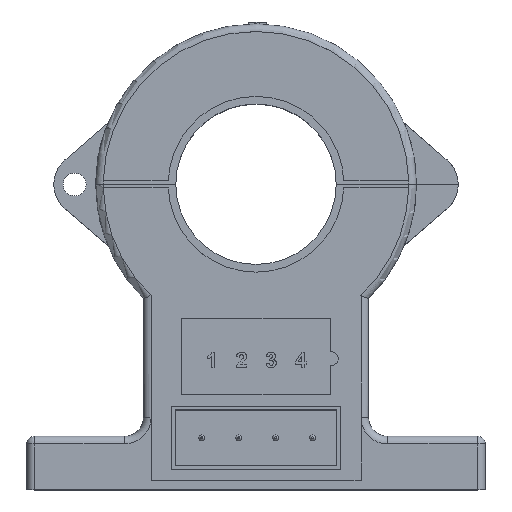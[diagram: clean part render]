
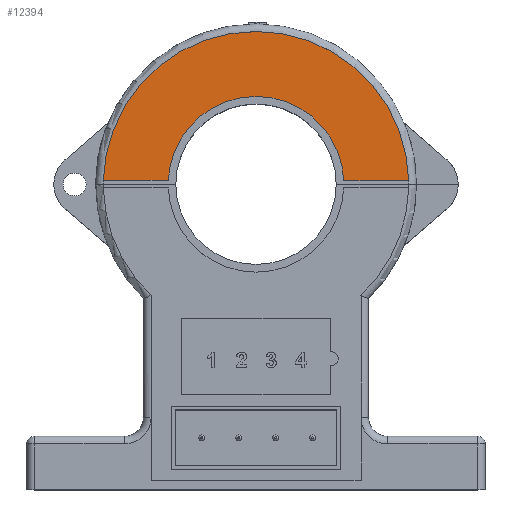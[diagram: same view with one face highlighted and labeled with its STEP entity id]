
A CAD part, top view. The second image highlights one B-rep face of the part: STEP entity #12394.
In plain terms, the highlighted planar face has unit normal (0, 0, 1).
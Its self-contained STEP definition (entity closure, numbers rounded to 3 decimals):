
#12083 = PLANE('',#12084);
#12084 = AXIS2_PLACEMENT_3D('',#12085,#12086,#12087);
#12085 = CARTESIAN_POINT('',(10.006,40.507,15.));
#12086 = DIRECTION('',(0.,-1.,0.));
#12087 = DIRECTION('',(1.,0.,0.));
#12108 = VERTEX_POINT('',#12109);
#12109 = CARTESIAN_POINT('',(18.511,40.507,15.1));
#12123 = CYLINDRICAL_SURFACE('',#12124,11.5);
#12124 = AXIS2_PLACEMENT_3D('',#12125,#12126,#12127);
#12125 = CARTESIAN_POINT('',(30.,40.,15.));
#12126 = DIRECTION('',(0.,0.,1.));
#12127 = DIRECTION('',(1.,-0.002,0.));
#12135 = EDGE_CURVE('',#12136,#12108,#12138,.T.);
#12136 = VERTEX_POINT('',#12137);
#12137 = CARTESIAN_POINT('',(10.006,40.507,15.1));
#12138 = SURFACE_CURVE('',#12139,(#12143,#12150),.PCURVE_S1.);
#12139 = LINE('',#12140,#12141);
#12140 = CARTESIAN_POINT('',(18.511,40.507,15.1));
#12141 = VECTOR('',#12142,1.);
#12142 = DIRECTION('',(1.,0.,0.));
#12143 = PCURVE('',#12083,#12144);
#12144 = DEFINITIONAL_REPRESENTATION('',(#12145),#12149);
#12145 = LINE('',#12146,#12147);
#12146 = CARTESIAN_POINT('',(8.505,0.1));
#12147 = VECTOR('',#12148,1.);
#12148 = DIRECTION('',(1.,0.));
#12149 = ( GEOMETRIC_REPRESENTATION_CONTEXT(2) 
PARAMETRIC_REPRESENTATION_CONTEXT() REPRESENTATION_CONTEXT('2D SPACE',''
  ) );
#12150 = PCURVE('',#12151,#12156);
#12151 = PLANE('',#12152);
#12152 = AXIS2_PLACEMENT_3D('',#12153,#12154,#12155);
#12153 = CARTESIAN_POINT('',(30.,50.241,15.1));
#12154 = DIRECTION('',(0.,0.,1.));
#12155 = DIRECTION('',(-1.,0.,0.));
#12156 = DEFINITIONAL_REPRESENTATION('',(#12157),#12161);
#12157 = LINE('',#12158,#12159);
#12158 = CARTESIAN_POINT('',(11.489,9.734));
#12159 = VECTOR('',#12160,1.);
#12160 = DIRECTION('',(-1.,0.));
#12161 = ( GEOMETRIC_REPRESENTATION_CONTEXT(2) 
PARAMETRIC_REPRESENTATION_CONTEXT() REPRESENTATION_CONTEXT('2D SPACE',''
  ) );
#12177 = CYLINDRICAL_SURFACE('',#12178,20.);
#12178 = AXIS2_PLACEMENT_3D('',#12179,#12180,#12181);
#12179 = CARTESIAN_POINT('',(30.,40.,15.));
#12180 = DIRECTION('',(0.,0.,1.));
#12181 = DIRECTION('',(1.,-0.001,0.));
#12221 = EDGE_CURVE('',#12222,#12136,#12224,.T.);
#12222 = VERTEX_POINT('',#12223);
#12223 = CARTESIAN_POINT('',(49.994,40.482,15.1));
#12224 = SURFACE_CURVE('',#12225,(#12230,#12237),.PCURVE_S1.);
#12225 = CIRCLE('',#12226,20.);
#12226 = AXIS2_PLACEMENT_3D('',#12227,#12228,#12229);
#12227 = CARTESIAN_POINT('',(30.,40.,15.1));
#12228 = DIRECTION('',(0.,0.,1.));
#12229 = DIRECTION('',(1.,-0.001,0.));
#12230 = PCURVE('',#12177,#12231);
#12231 = DEFINITIONAL_REPRESENTATION('',(#12232),#12236);
#12232 = LINE('',#12233,#12234);
#12233 = CARTESIAN_POINT('',(0.,0.1));
#12234 = VECTOR('',#12235,1.);
#12235 = DIRECTION('',(1.,0.));
#12236 = ( GEOMETRIC_REPRESENTATION_CONTEXT(2) 
PARAMETRIC_REPRESENTATION_CONTEXT() REPRESENTATION_CONTEXT('2D SPACE',''
  ) );
#12237 = PCURVE('',#12151,#12238);
#12238 = DEFINITIONAL_REPRESENTATION('',(#12239),#12243);
#12239 = CIRCLE('',#12240,20.);
#12240 = AXIS2_PLACEMENT_2D('',#12241,#12242);
#12241 = CARTESIAN_POINT('',(0.,10.241));
#12242 = DIRECTION('',(-1.,0.001));
#12243 = ( GEOMETRIC_REPRESENTATION_CONTEXT(2) 
PARAMETRIC_REPRESENTATION_CONTEXT() REPRESENTATION_CONTEXT('2D SPACE',''
  ) );
#12259 = PLANE('',#12260);
#12260 = AXIS2_PLACEMENT_3D('',#12261,#12262,#12263);
#12261 = CARTESIAN_POINT('',(41.49,40.482,15.));
#12262 = DIRECTION('',(0.,-1.,0.));
#12263 = DIRECTION('',(1.,0.,0.));
#12298 = EDGE_CURVE('',#12299,#12222,#12301,.T.);
#12299 = VERTEX_POINT('',#12300);
#12300 = CARTESIAN_POINT('',(41.49,40.482,15.1));
#12301 = SURFACE_CURVE('',#12302,(#12306,#12313),.PCURVE_S1.);
#12302 = LINE('',#12303,#12304);
#12303 = CARTESIAN_POINT('',(41.49,40.482,15.1));
#12304 = VECTOR('',#12305,1.);
#12305 = DIRECTION('',(1.,0.,0.));
#12306 = PCURVE('',#12259,#12307);
#12307 = DEFINITIONAL_REPRESENTATION('',(#12308),#12312);
#12308 = LINE('',#12309,#12310);
#12309 = CARTESIAN_POINT('',(0.,0.1));
#12310 = VECTOR('',#12311,1.);
#12311 = DIRECTION('',(1.,0.));
#12312 = ( GEOMETRIC_REPRESENTATION_CONTEXT(2) 
PARAMETRIC_REPRESENTATION_CONTEXT() REPRESENTATION_CONTEXT('2D SPACE',''
  ) );
#12313 = PCURVE('',#12151,#12314);
#12314 = DEFINITIONAL_REPRESENTATION('',(#12315),#12319);
#12315 = LINE('',#12316,#12317);
#12316 = CARTESIAN_POINT('',(-11.49,9.759));
#12317 = VECTOR('',#12318,1.);
#12318 = DIRECTION('',(-1.,0.));
#12319 = ( GEOMETRIC_REPRESENTATION_CONTEXT(2) 
PARAMETRIC_REPRESENTATION_CONTEXT() REPRESENTATION_CONTEXT('2D SPACE',''
  ) );
#12346 = EDGE_CURVE('',#12108,#12299,#12347,.T.);
#12347 = SURFACE_CURVE('',#12348,(#12353,#12360),.PCURVE_S1.);
#12348 = CIRCLE('',#12349,11.5);
#12349 = AXIS2_PLACEMENT_3D('',#12350,#12351,#12352);
#12350 = CARTESIAN_POINT('',(30.,40.,15.1));
#12351 = DIRECTION('',(0.,0.,-1.));
#12352 = DIRECTION('',(1.,-0.002,0.));
#12353 = PCURVE('',#12123,#12354);
#12354 = DEFINITIONAL_REPRESENTATION('',(#12355),#12359);
#12355 = LINE('',#12356,#12357);
#12356 = CARTESIAN_POINT('',(6.283,0.1));
#12357 = VECTOR('',#12358,1.);
#12358 = DIRECTION('',(-1.,0.));
#12359 = ( GEOMETRIC_REPRESENTATION_CONTEXT(2) 
PARAMETRIC_REPRESENTATION_CONTEXT() REPRESENTATION_CONTEXT('2D SPACE',''
  ) );
#12360 = PCURVE('',#12151,#12361);
#12361 = DEFINITIONAL_REPRESENTATION('',(#12362),#12370);
#12362 = ( BOUNDED_CURVE() B_SPLINE_CURVE(2,(#12363,#12364,#12365,#12366
    ,#12367,#12368,#12369),.UNSPECIFIED.,.T.,.F.) 
B_SPLINE_CURVE_WITH_KNOTS((1,2,2,2,2,1),(-2.094,0.,
    2.094,4.189,6.283,8.378),
.UNSPECIFIED.) CURVE() GEOMETRIC_REPRESENTATION_ITEM() 
RATIONAL_B_SPLINE_CURVE((1.,0.5,1.,0.5,1.,0.5,1.)) REPRESENTATION_ITEM(
  '') );
#12363 = CARTESIAN_POINT('',(-11.5,10.261));
#12364 = CARTESIAN_POINT('',(-11.465,30.18));
#12365 = CARTESIAN_POINT('',(5.768,20.19));
#12366 = CARTESIAN_POINT('',(23.,10.201));
#12367 = CARTESIAN_POINT('',(5.733,0.272));
#12368 = CARTESIAN_POINT('',(-11.534,-9.657));
#12369 = CARTESIAN_POINT('',(-11.5,10.261));
#12370 = ( GEOMETRIC_REPRESENTATION_CONTEXT(2) 
PARAMETRIC_REPRESENTATION_CONTEXT() REPRESENTATION_CONTEXT('2D SPACE',''
  ) );
#12394 = ADVANCED_FACE('',(#12395),#12151,.T.);
#12395 = FACE_BOUND('',#12396,.T.);
#12396 = EDGE_LOOP('',(#12397,#12398,#12399,#12400));
#12397 = ORIENTED_EDGE('',*,*,#12346,.T.);
#12398 = ORIENTED_EDGE('',*,*,#12298,.T.);
#12399 = ORIENTED_EDGE('',*,*,#12221,.T.);
#12400 = ORIENTED_EDGE('',*,*,#12135,.T.);
